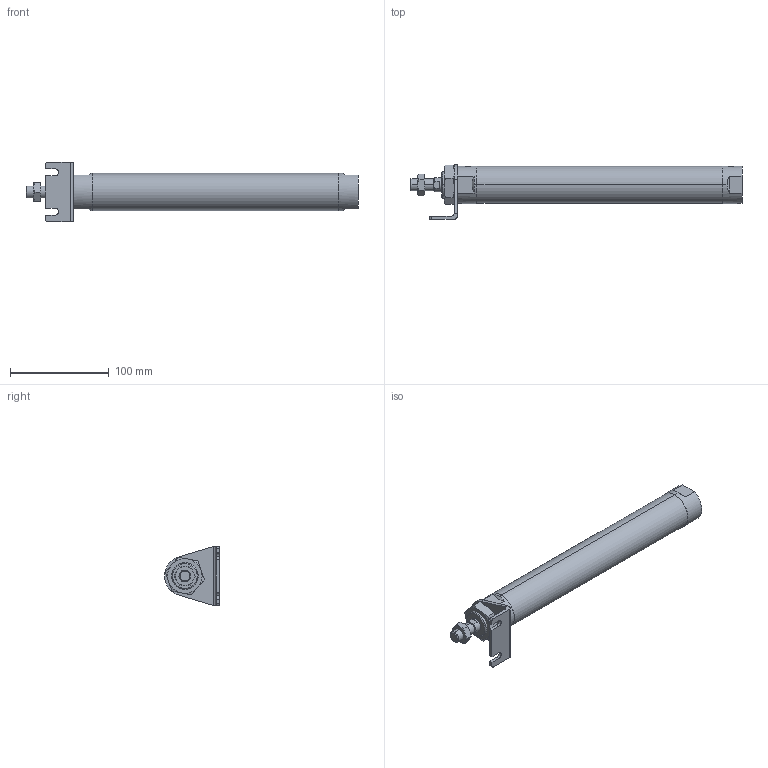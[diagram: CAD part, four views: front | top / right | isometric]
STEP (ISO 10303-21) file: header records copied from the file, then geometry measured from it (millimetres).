
FILE_DESCRIPTION (( 'STEP AP203' ), '1' );
FILE_NAME ('JGND2-32-200-L.STEP', '2016-08-04T02:56:19', ( '' ), ( '' ), 'SwSTEP 2.0', 'SolidWorks 2014', '' );
FILE_SCHEMA (( 'CONFIG_CONTROL_DESIGN' ));
Length unit declared in the file: millimetre
Products named in the file (5): J#2-32-L; JGND2-32-200-L; J#2-32-200(P)
Assembly tree (4 placements, depth 2):
  JGND2-32-200-L
    J#2-32-200(P)
    (unnamed)
    (unnamed)
    J#2-32-L
Bounding box: 337 x 55.5 x 60 mm (x, y, z)
Volume: 348315.9 mm3; surface area: 51934.9 mm2
Topology: 4 solids, 4 shells, 116 faces, 273 edges, 167 vertices
Faces by surface type: plane 47, cylinder 32, torus 24, cone 13
Entity records: 4285 total; most frequent: CARTESIAN_POINT 1166, DIRECTION 548, ORIENTED_EDGE 538, EDGE_CURVE 269, AXIS2_PLACEMENT_3D 219, VERTEX_POINT 167, EDGE_LOOP 128, ADVANCED_FACE 116
